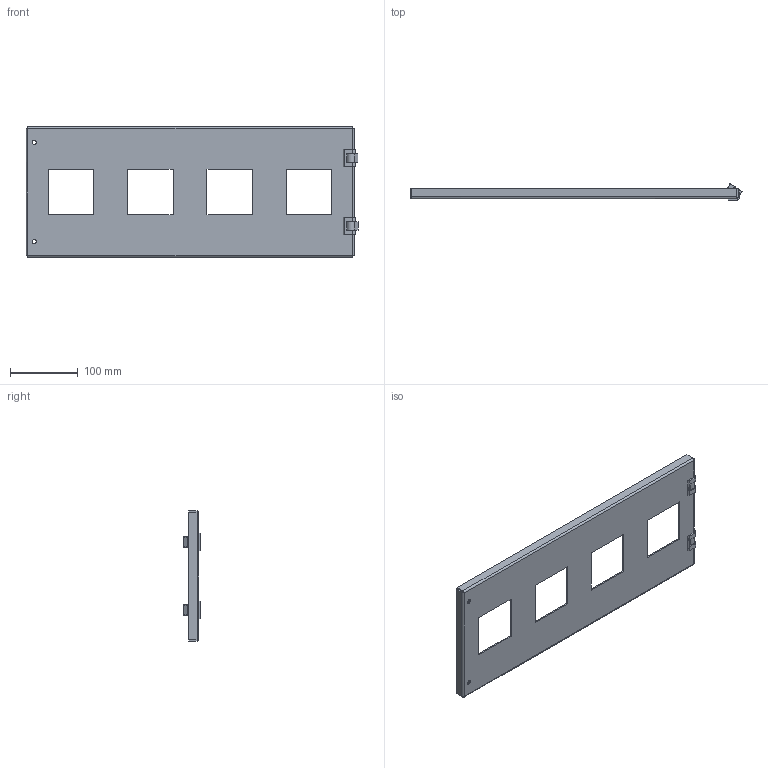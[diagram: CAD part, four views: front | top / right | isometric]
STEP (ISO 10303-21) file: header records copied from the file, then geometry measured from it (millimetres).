
FILE_DESCRIPTION (( 'STEP AP203' ), '1' );
FILE_NAME ('ÄâåðüÌîäóëüíàÿ200x600-4-67x67(260259)ÂÑáîðå.STEP', '2018-08-03T10:43:10', ( '' ), ( '' ), 'SwSTEP 2.0', 'SolidWorks 2018', '' );
FILE_SCHEMA (( 'CONFIG_CONTROL_DESIGN' ));
Length unit declared in the file: millimetre
Products named in the file (9): ÏåòëÿÄâåðüÌîäóëüíàÿ; ÄâåðüÌîäóëüíàÿ200x600-4-67x67(260259); ÏåòëÿÄâåðüÌîäóëüíàÿ_1; ÄâåðüÌîäóëüíàÿ200x600-4-67x67(260259)ÂÑáîðå
Assembly tree (5 placements, depth 2):
  ÏåòëÿÄâåðüÌîäóëüíàÿ
  ÄâåðüÌîäóëüíàÿ200x600-4-67x67(260259)
  ÏåòëÿÄâåðüÌîäóëüíàÿ_1
  ÄâåðüÌîäóëüíàÿ200x600-4-67x67(260259)ÂÑáîðå
    ÄâåðüÌîäóëüíàÿ200x600-4-67x67(260259)
    ÏåòëÿÄâåðüÌîäóëüíàÿ  x2
    ÏåòëÿÄâåðüÌîäóëüíàÿ_1  x2
  ÏåòëÿÄâåðüÌîäóëüíàÿ_1
Bounding box: 488.85 x 24.2 x 192 mm (x, y, z)
Volume: 189398.7 mm3; surface area: 193195.4 mm2
Topology: 5 solids, 5 shells, 198 faces, 506 edges, 316 vertices
Faces by surface type: plane 130, cylinder 56, bspline 8, cone 4
Entity records: 5340 total; most frequent: CARTESIAN_POINT 1185, ORIENTED_EDGE 698, DIRECTION 656, EDGE_CURVE 349, LINE 262, VECTOR 262, VERTEX_POINT 214, AXIS2_PLACEMENT_3D 197
